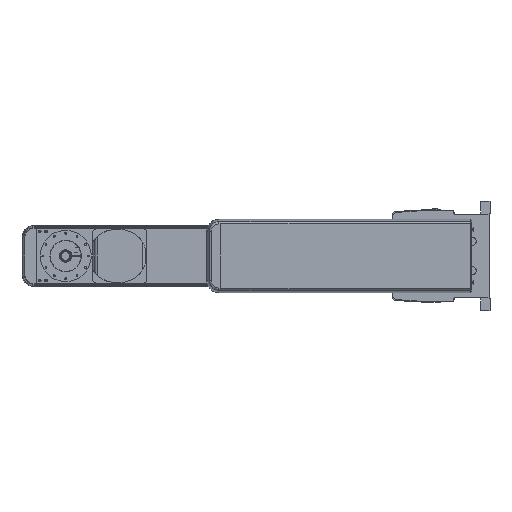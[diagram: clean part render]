
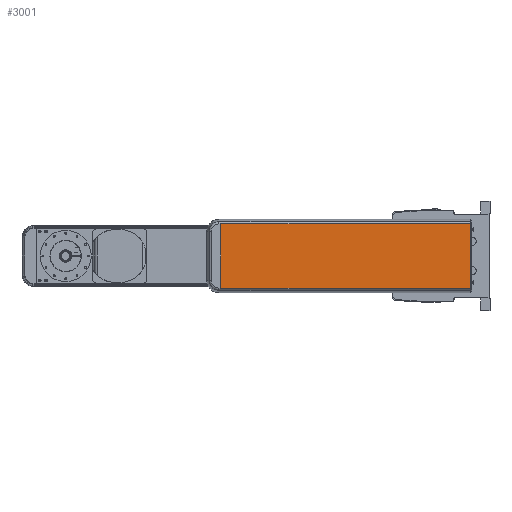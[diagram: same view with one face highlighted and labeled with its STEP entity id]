
A CAD part, front view. The second image highlights one B-rep face of the part: STEP entity #3001.
In plain terms, the highlighted planar face has unit normal (0, -1, 0).
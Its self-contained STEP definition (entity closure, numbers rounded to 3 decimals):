
#3001 = ADVANCED_FACE( '', ( #6584 ), #6585, .F. );
#6584 = FACE_OUTER_BOUND( '', #10838, .T. );
#6585 = PLANE( '', #10839 );
#10838 = EDGE_LOOP( '', ( #18916, #18917, #18918, #18919 ) );
#10839 = AXIS2_PLACEMENT_3D( '', #18920, #18921, #18922 );
#18916 = ORIENTED_EDGE( '', *, *, #23385, .F. );
#18917 = ORIENTED_EDGE( '', *, *, #21870, .T. );
#18918 = ORIENTED_EDGE( '', *, *, #23312, .T. );
#18919 = ORIENTED_EDGE( '', *, *, #22646, .F. );
#18920 = CARTESIAN_POINT( '', ( 68., -71.5, 52.065 ) );
#18921 = DIRECTION( '', ( 0., 1., 0. ) );
#18922 = DIRECTION( '', ( 0., 0., 1. ) );
#21870 = EDGE_CURVE( '', #25731, #25735, #25737, .T. );
#22646 = EDGE_CURVE( '', #27039, #27042, #27043, .T. );
#23312 = EDGE_CURVE( '', #25735, #27042, #28118, .T. );
#23385 = EDGE_CURVE( '', #25731, #27039, #28231, .T. );
#25731 = VERTEX_POINT( '', #31363 );
#25735 = VERTEX_POINT( '', #31369 );
#25737 = LINE( '', #31372, #31373 );
#27039 = VERTEX_POINT( '', #33344 );
#27042 = VERTEX_POINT( '', #33348 );
#27043 = LINE( '', #33349, #33350 );
#28118 = LINE( '', #35029, #35030 );
#28231 = LINE( '', #35171, #35172 );
#31363 = CARTESIAN_POINT( '', ( 58., -71.5, 52.065 ) );
#31369 = CARTESIAN_POINT( '', ( -348., -71.5, 52.065 ) );
#31372 = CARTESIAN_POINT( '', ( 68., -71.5, 52.065 ) );
#31373 = VECTOR( '', #39259, 1000. );
#33344 = CARTESIAN_POINT( '', ( 58., -71.5, -52.065 ) );
#33348 = CARTESIAN_POINT( '', ( -348., -71.5, -52.065 ) );
#33349 = CARTESIAN_POINT( '', ( 68., -71.5, -52.065 ) );
#33350 = VECTOR( '', #40269, 1000. );
#35029 = CARTESIAN_POINT( '', ( -348., -71.5, 52.065 ) );
#35030 = VECTOR( '', #41133, 1000. );
#35171 = CARTESIAN_POINT( '', ( 58., -71.5, 52.065 ) );
#35172 = VECTOR( '', #41240, 1000. );
#39259 = DIRECTION( '', ( -1., 0., 0. ) );
#40269 = DIRECTION( '', ( -1., 0., 0. ) );
#41133 = DIRECTION( '', ( 0., 0., -1. ) );
#41240 = DIRECTION( '', ( 0., 0., -1. ) );
